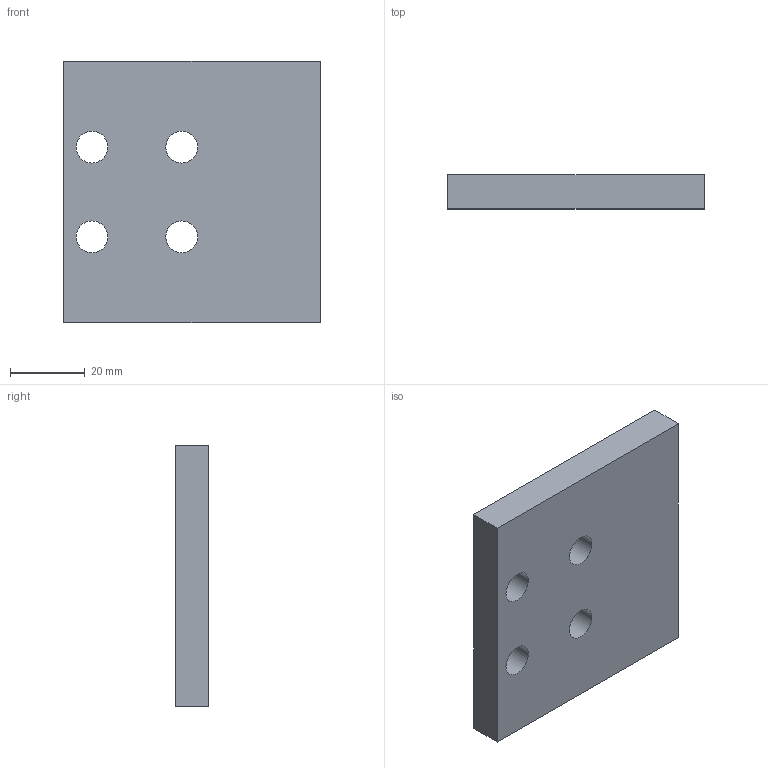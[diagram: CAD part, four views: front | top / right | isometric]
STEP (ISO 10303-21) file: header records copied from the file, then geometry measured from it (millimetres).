
FILE_DESCRIPTION( ( '' ), '1' );
FILE_NAME( 'E:/04 嬴檜蠱滌/0404 ZIMMER/040414 ZIMMER CAD download/Adapt plate/PLK for LKP, LKPS/PLK35-9.stp', '2020-04-16T10:19:55', ( '' ), ( '' ), ' ', ' ', ' ' );
FILE_SCHEMA( ( 'automotive_design' ) );
Length unit declared in the file: millimetre
Products named in the file (1): 1
Bounding box: 68.5 x 9 x 70 mm (x, y, z)
Volume: 41112.2 mm3; surface area: 12590.4 mm2
Topology: 1 solids, 1 shells, 14 faces, 36 edges, 24 vertices
Faces by surface type: cylinder 8, plane 6
Entity records: 888 total; most frequent: DIRECTION 82, STYLED_ITEM 75, PRESENTATION_STYLE_ASSIGNMENT 75, CARTESIAN_POINT 75, COLOUR_RGB 75, ORIENTED_EDGE 72, EDGE_CURVE 36, CURVE_STYLE 36
